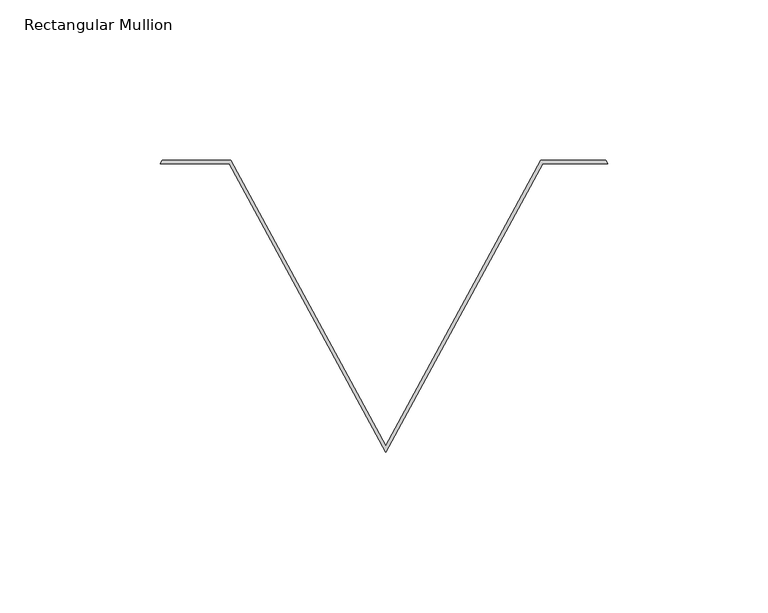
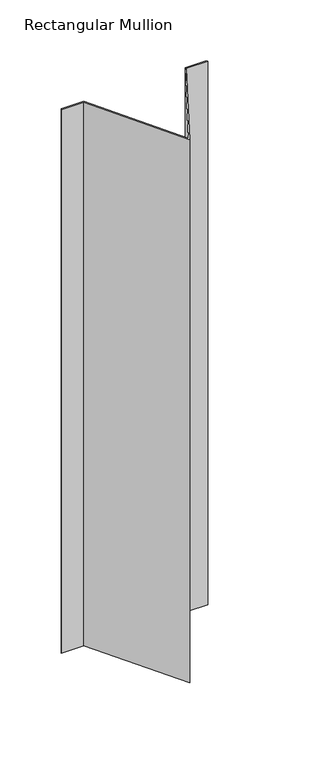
"""IFC4 building model written with IfcOpenShell, lengths in millimetres: member geometry, Rectangular Mullion : CD_NINELINE_Pleat End."""

from ifc_helpers import new_model, si_unit, frame, origin, place, context, project, spatial, polyline, outline, extrude, source, transform, mapped, element, save


def rectangular_mullion_9c0c3c6b(model_context):
    return source(origin(), model_context, "Body", "SweptSolid", [
        extrude(outline(polyline([(-138.8729579, 0.0), (-117.4072161, 0.0), (-69.1383234, -88.9018164), (-20.8694306, 0.0), (-0.5429557, 0.0), (0.0, -1.0), (-20.272258, -1.0), (-69.1382709, -91.0), (-118.0042839, -1.0), (-139.415904, -1.0), (-138.8729579, 0.0)])), frame((0.0, 0.0, -547.0), z_axis=(0.0, 0.0, 1.0), x_axis=(1.0, 0.0, 0.0)), (0.0, 0.0, 1.0), 547.0),
    ])


if __name__ == "__main__":
    model = new_model("IFC4")
    model_context = context("Model", 3, world=origin())
    ifc_project = project(units=[si_unit("LENGTHUNIT", "METRE", prefix="MILLI")], contexts=[model_context])
    site = spatial("IfcSite", under=ifc_project)
    building = spatial("IfcBuilding", under=site)
    placement = place(None, origin())
    rectangular_mullion_shape = rectangular_mullion_9c0c3c6b(model_context)
    element("IfcMember", 1, ObjectType="Rectangular Mullion : CD_NINELINE_Pleat End", at=placement, inside=building, context=model_context, shape_type="MappedRepresentation", body=[
        mapped(rectangular_mullion_shape, transform((0.0, 0.0, 0.0), x_axis=(1.0, 0.0, 0.0), y_axis=(0.0, 1.0, 0.0), z_axis=(0.0, 0.0, 1.0))),
    ])
    save(model, "model.ifc")
